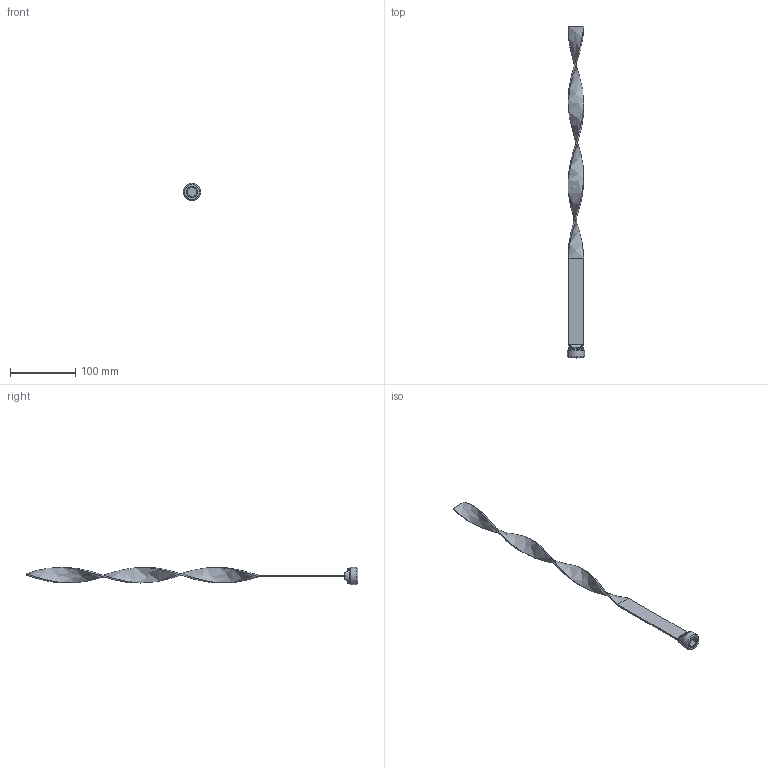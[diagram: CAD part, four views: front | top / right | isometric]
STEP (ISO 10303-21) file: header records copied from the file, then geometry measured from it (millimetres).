
FILE_DESCRIPTION(/* description */ (''),/* implementation_level */ '2;1');
FILE_NAME(/* name */ 'C:/Users/drich/Desktop/TB34X20 v1.step',/* time_stamp */ '2020-01-14T09:04:29-06:00',/* author */ (''),/* organization */ (''),/* preprocessor_version */ 'ST-DEVELOPER v18',/* originating_system */ 'Autodesk Translation Framework v8.12.0.6',/* authorisation */ '');
FILE_SCHEMA (('AUTOMOTIVE_DESIGN { 1 0 10303 214 3 1 1 }'));
Length unit declared in the file: inch
Products named in the file (1): TB34X20
Bounding box: 26.3 x 508 x 26.3 mm (x, y, z)
Volume: 34143.6 mm3; surface area: 28655.8 mm2
Topology: 2 solids, 2 shells, 43 faces, 107 edges, 70 vertices
Faces by surface type: plane 22, bspline 10, cylinder 6, cone 3, torus 2
Full cylindrical faces by diameter (mm): 22.504 x1, 26.299 x1
Entity records: 2058 total; most frequent: CARTESIAN_POINT 1055, ORIENTED_EDGE 214, DIRECTION 175, EDGE_CURVE 107, VERTEX_POINT 70, AXIS2_PLACEMENT_3D 64, LINE 47, VECTOR 47
